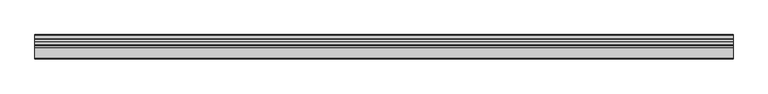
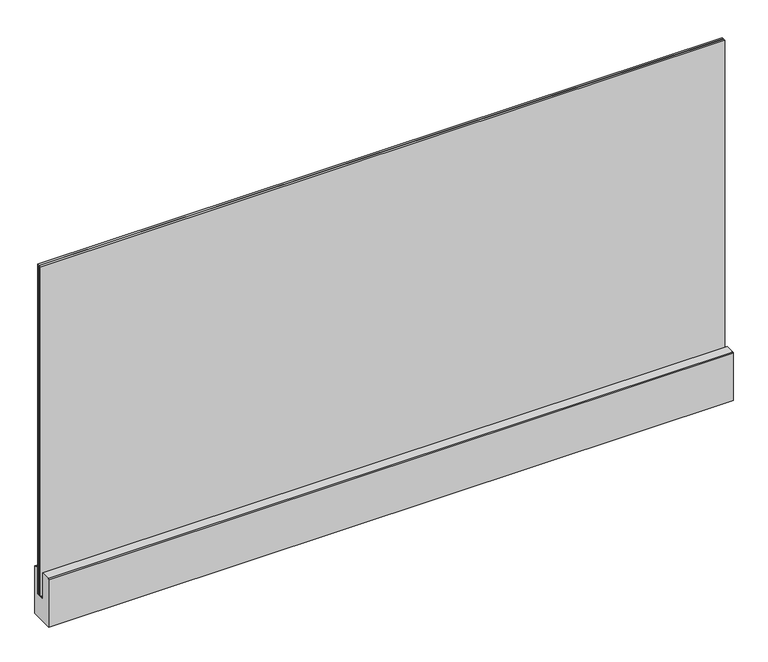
"""IFC4 building model written with IfcOpenShell, lengths in millimetres: railing geometry, Glass Railing (10+10) - Faraone - Ninfa 176 - Wall mounted - Without Handrail."""

from ifc_helpers import new_model, si_unit, point, frame, frame_2d, origin, place, context, project, spatial, polyline, circle_curve, trimmed, segment, composite_curve, outline, extrude, source, transform, mapped, element, save


def railing_0b939dc2(model_context):
    return source(origin(), model_context, "Body", "SweptSolid", [
        extrude(outline(polyline([(-1182.0130669, -92.36), (-1198.8130669, -92.36), (-1198.8130669, 1089.54), (-1190.9130669, 1089.54), (-1190.9130669, -91.56), (-1189.9130669, -91.56), (-1189.9130669, 1089.54), (-1182.0130669, 1089.54), (-1182.0130669, -92.36)])), frame((4362.6376845, 0.0, 0.0), z_axis=(1.0, 0.0, 0.0), x_axis=(0.0, 1.0, 0.0)), (0.0, 0.0, 1.0), 2320.0),
        extrude(outline(composite_curve([segment(trimmed(circle_curve(frame_2d((-1169.5204973, -3.1212327)), 3.1206002), [point((-1169.5204973, -0.0006325))], [point((-1166.3998971, -3.1212327))], False, "CARTESIAN"), True, "CONTINUOUS"), segment(polyline([(-1166.3998971, -3.1212327), (-1166.3998971, -173.21), (-1246.7434306, -173.21), (-1246.7434306, -3.0621312)]), True, "CONTINUOUS"), segment(trimmed(circle_curve(frame_2d((-1243.6819318, -3.0621312)), 3.0614987), [point((-1246.7434306, -3.0621312))], [point((-1243.6819318, -0.0006325))], False, "CARTESIAN"), True, "CONTINUOUS"), segment(polyline([(-1243.6819318, -0.0006325), (-1211.2011959, -0.0006325), (-1211.2011959, -95.3393625), (-1179.4249379, -95.3393625), (-1179.4249379, -0.0006325), (-1169.5204973, -0.0006325)]), True, "CONTINUOUS")], self_intersect=False)), frame((4362.6376845, 0.0, 0.0), z_axis=(1.0, 0.0, 0.0), x_axis=(0.0, 1.0, 0.0)), (0.0, 0.0, 1.0), 2320.0),
        extrude(outline(polyline([(-1179.4211521, -95.34), (-1202.9049817, -95.34), (-1202.9049817, -92.3609041), (-1182.1451001, -92.3609041), (-1182.1451001, -20.1108016), (-1179.4211521, -20.1108016), (-1179.4211521, -95.34)])), frame((4362.6376845, 0.0, 0.0), z_axis=(1.0, 0.0, 0.0), x_axis=(0.0, 1.0, 0.0)), (0.0, 0.0, 1.0), 2320.0),
    ])


if __name__ == "__main__":
    model = new_model("IFC4")
    model_context = context("Model", 3, world=origin())
    ifc_project = project(units=[si_unit("LENGTHUNIT", "METRE", prefix="MILLI")], contexts=[model_context])
    site = spatial("IfcSite", under=ifc_project)
    building = spatial("IfcBuilding", under=site)
    placement = place(None, origin())
    railing_shape = railing_0b939dc2(model_context)
    element("IfcRailing", 1, ObjectType="Glass Railing (10+10) - Faraone - Ninfa 176 - Wall mounted - Without Handrail", at=placement, inside=building, context=model_context, shape_type="MappedRepresentation", body=[
        mapped(railing_shape, transform((0.0, 0.0, 0.0), x_axis=(1.0, 0.0, 0.0), y_axis=(0.0, 1.0, 0.0), z_axis=(0.0, 0.0, 1.0))),
    ])
    save(model, "model.ifc")
